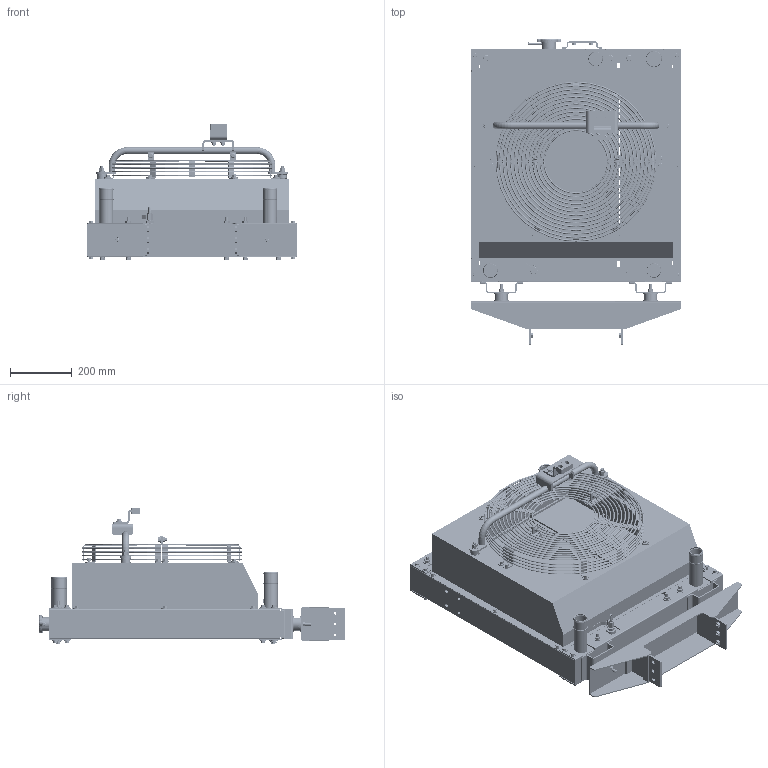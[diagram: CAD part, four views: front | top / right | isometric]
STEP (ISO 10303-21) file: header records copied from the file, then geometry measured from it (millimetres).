
FILE_DESCRIPTION(('CATIA V6 STEP'),'2;1');
FILE_NAME('\\grdcfs\Engine Dev\200.설계부문\200.G2설계팀\◆Head_Cooling_System\StageV\2_Cooling\3. Stadard_Cooling pack\02_대흥라디에이터\3. 공통 이슈\200601_Radiator Assy 개선 건\★강건사양\★내보낸 모델링\440211-01222D RADIATOR ASSY;DM03 42DEG.stp','2021-06-17T06:56:32+00:00',('none'),('none'),'3DEXPERIENCE Platform3DEXPERIENCE R2014x HotFix 24','3DEXPERIENCE Platform STEP AP203','none');
FILE_SCHEMA(('CONFIG_CONTROL_DESIGN'));
Bounding box: 676 x 988.4 x 439.2 mm (x, y, z)
Volume: 37477224 mm3; surface area: 5180766 mm2
Topology: 291 solids, 291 shells, 5059 faces, 11991 edges, 7736 vertices
Faces by surface type: plane 2420, cylinder 1398, cone 678, bspline 305, torus 238, revolution 20
Entity records: 177103 total; most frequent: CARTESIAN_POINT 67074, ORIENTED_EDGE 23966, DIRECTION 18371, EDGE_CURVE 11983, AXIS2_PLACEMENT_3D 7960, VERTEX_POINT 7731, EDGE_LOOP 5844, VECTOR 5664
